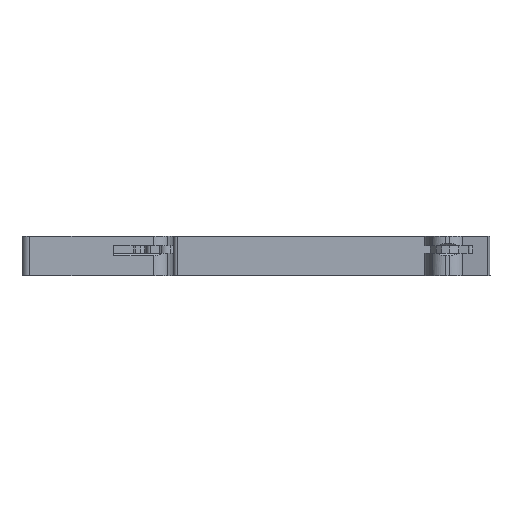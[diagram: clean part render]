
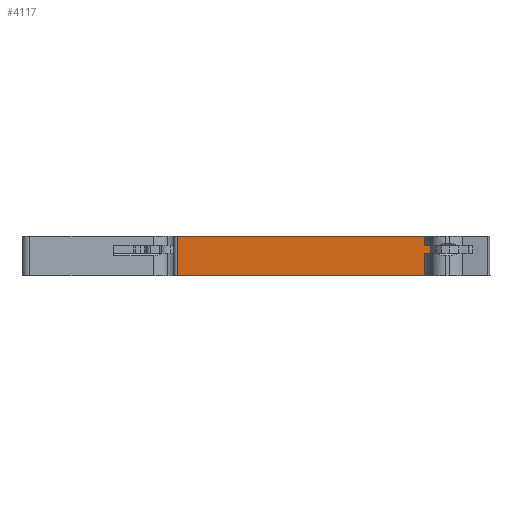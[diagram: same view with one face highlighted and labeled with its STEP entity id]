
A CAD part, front view. The second image highlights one B-rep face of the part: STEP entity #4117.
In plain terms, the highlighted planar face has unit normal (0, -1, 0).
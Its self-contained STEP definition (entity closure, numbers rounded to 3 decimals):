
#112 = CARTESIAN_POINT ( 'NONE',  ( 53.295, -29.4, 3.9 ) ) ;
#330 = AXIS2_PLACEMENT_3D ( 'NONE', #8912, #11677, #17242 ) ;
#911 = DIRECTION ( 'NONE',  ( 1., 0., 0. ) ) ;
#984 = VECTOR ( 'NONE', #5733, 1000. ) ;
#1328 = LINE ( 'NONE', #12687, #984 ) ;
#1448 = EDGE_CURVE ( 'NONE', #16121, #9480, #1328, .T. ) ;
#2867 = LINE ( 'NONE', #4516, #9953 ) ;
#3477 = LINE ( 'NONE', #8877, #15755 ) ;
#3846 = LINE ( 'NONE', #4941, #15374 ) ;
#4117 = ADVANCED_FACE ( 'NONE', ( #6084 ), #5913, .F. ) ;
#4516 = CARTESIAN_POINT ( 'NONE',  ( 53.295, -29.4, 5.15 ) ) ;
#4941 = CARTESIAN_POINT ( 'NONE',  ( 20.147, -29.4, 0. ) ) ;
#5733 = DIRECTION ( 'NONE',  ( 0., 0., -1. ) ) ;
#5913 = PLANE ( 'NONE',  #330 ) ;
#5922 = EDGE_CURVE ( 'NONE', #17510, #16121, #14721, .T. ) ;
#6084 = FACE_OUTER_BOUND ( 'NONE', #9877, .T. ) ;
#6530 = VERTEX_POINT ( 'NONE', #8361 ) ;
#6592 = VECTOR ( 'NONE', #14923, 1000. ) ;
#6732 = CARTESIAN_POINT ( 'NONE',  ( 20.147, -29.4, 0. ) ) ;
#6885 = CARTESIAN_POINT ( 'NONE',  ( 53.295, -29.4, 2.909 ) ) ;
#6909 = ORIENTED_EDGE ( 'NONE', *, *, #1448, .F. ) ;
#7684 = CARTESIAN_POINT ( 'NONE',  ( 20.147, -29.4, 0. ) ) ;
#8361 = CARTESIAN_POINT ( 'NONE',  ( 53.295, -29.4, 5.15 ) ) ;
#8877 = CARTESIAN_POINT ( 'NONE',  ( 20.147, -29.4, 5.15 ) ) ;
#8912 = CARTESIAN_POINT ( 'NONE',  ( 36.721, -29.4, 2.575 ) ) ;
#9223 = CARTESIAN_POINT ( 'NONE',  ( 53.295, -29.4, 3.9 ) ) ;
#9431 = CARTESIAN_POINT ( 'NONE',  ( 20.147, -29.4, 5.15 ) ) ;
#9480 = VERTEX_POINT ( 'NONE', #17728 ) ;
#9877 = EDGE_LOOP ( 'NONE', ( #16076, #10021, #13378, #16077, #17427, #6909 ) ) ;
#9953 = VECTOR ( 'NONE', #16871, 1000. ) ;
#10021 = ORIENTED_EDGE ( 'NONE', *, *, #11720, .F. ) ;
#10272 = EDGE_CURVE ( 'NONE', #14232, #9480, #3846, .T. ) ;
#11677 = DIRECTION ( 'NONE',  ( 0., 1., 0. ) ) ;
#11720 = EDGE_CURVE ( 'NONE', #6530, #17510, #2867, .T. ) ;
#12687 = CARTESIAN_POINT ( 'NONE',  ( 53.295, -29.4, 2.909 ) ) ;
#13378 = ORIENTED_EDGE ( 'NONE', *, *, #16349, .F. ) ;
#14232 = VERTEX_POINT ( 'NONE', #6732 ) ;
#14640 = DIRECTION ( 'NONE',  ( 0., 0., -1. ) ) ;
#14721 = LINE ( 'NONE', #9223, #16862 ) ;
#14923 = DIRECTION ( 'NONE',  ( 0., 0., 1. ) ) ;
#15072 = VERTEX_POINT ( 'NONE', #9431 ) ;
#15374 = VECTOR ( 'NONE', #17659, 1000. ) ;
#15755 = VECTOR ( 'NONE', #911, 1000. ) ;
#16076 = ORIENTED_EDGE ( 'NONE', *, *, #5922, .F. ) ;
#16077 = ORIENTED_EDGE ( 'NONE', *, *, #17626, .F. ) ;
#16121 = VERTEX_POINT ( 'NONE', #6885 ) ;
#16349 = EDGE_CURVE ( 'NONE', #15072, #6530, #3477, .T. ) ;
#16862 = VECTOR ( 'NONE', #14640, 1000. ) ;
#16871 = DIRECTION ( 'NONE',  ( 0., 0., -1. ) ) ;
#17242 = DIRECTION ( 'NONE',  ( 1., 0., 0. ) ) ;
#17427 = ORIENTED_EDGE ( 'NONE', *, *, #10272, .T. ) ;
#17510 = VERTEX_POINT ( 'NONE', #112 ) ;
#17626 = EDGE_CURVE ( 'NONE', #14232, #15072, #17654, .T. ) ;
#17654 = LINE ( 'NONE', #7684, #6592 ) ;
#17659 = DIRECTION ( 'NONE',  ( 1., 0., 0. ) ) ;
#17728 = CARTESIAN_POINT ( 'NONE',  ( 53.295, -29.4, 0. ) ) ;
